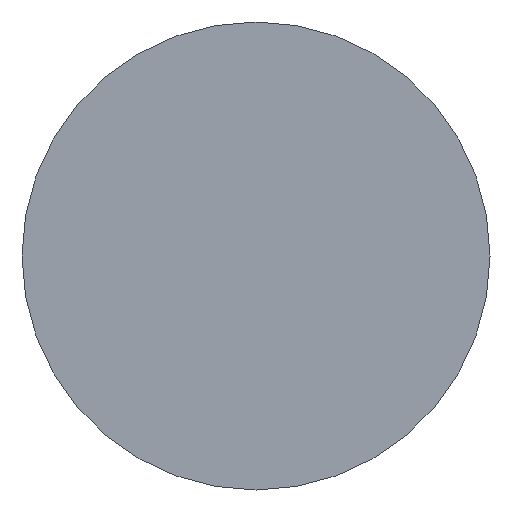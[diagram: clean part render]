
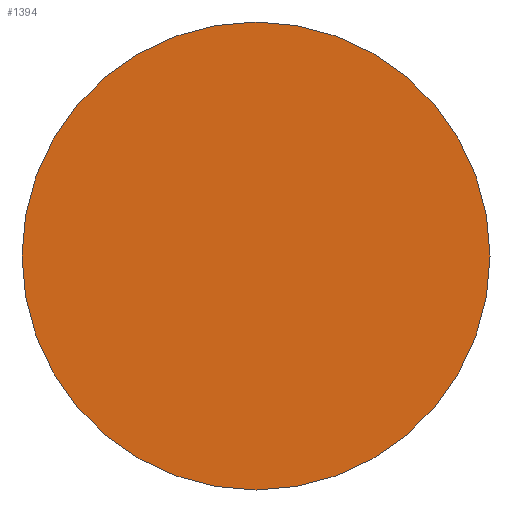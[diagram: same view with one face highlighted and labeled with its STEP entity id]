
A CAD part, left-side view. The second image highlights one B-rep face of the part: STEP entity #1394.
In plain terms, the highlighted planar face has unit normal (-1, 0, 0).
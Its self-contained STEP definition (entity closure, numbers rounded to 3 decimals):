
#1347=CARTESIAN_POINT('',(-528.136,-426.609,0.0));
#1348=VERTEX_POINT('',#1347);
#1355=CARTESIAN_POINT('',(-528.136,-549.609,0.0));
#1356=VERTEX_POINT('',#1355);
#1357=CARTESIAN_POINT('',(-528.136,-488.109,0.0));
#1358=DIRECTION('',(-1.0,0.0,0.0));
#1359=DIRECTION('',(0.0,1.0,0.0));
#1360=AXIS2_PLACEMENT_3D('',#1357,#1358,#1359);
#1361=CIRCLE('',#1360,61.5);
#1362=EDGE_CURVE('',#1356,#1348,#1361,.T.);
#1364=CARTESIAN_POINT('',(-528.136,-488.109,0.0));
#1365=DIRECTION('',(-1.0,0.0,0.0));
#1366=DIRECTION('',(0.0,1.0,0.0));
#1367=AXIS2_PLACEMENT_3D('',#1364,#1365,#1366);
#1368=CIRCLE('',#1367,61.5);
#1369=EDGE_CURVE('',#1348,#1356,#1368,.T.);
#1385=CARTESIAN_POINT('',(-528.136,-561.91,73.8));
#1386=DIRECTION('',(-1.0,0.0,0.0));
#1387=DIRECTION('',(0.0,1.0,0.0));
#1388=AXIS2_PLACEMENT_3D('',#1385,#1386,#1387);
#1389=PLANE('',#1388);
#1390=ORIENTED_EDGE('',*,*,#1369,.T.);
#1391=ORIENTED_EDGE('',*,*,#1362,.T.);
#1392=EDGE_LOOP('',(#1390,#1391));
#1393=FACE_OUTER_BOUND('',#1392,.T.);
#1394=ADVANCED_FACE('',(#1393),#1389,.T.);
